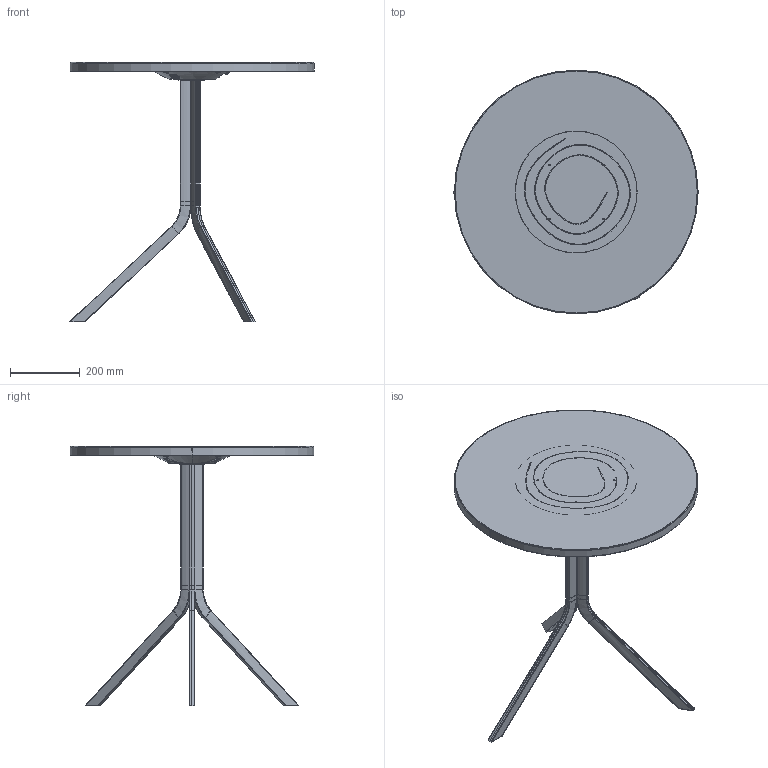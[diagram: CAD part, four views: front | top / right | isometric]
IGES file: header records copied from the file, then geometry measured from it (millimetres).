
Start section: 3D InterOp IGES (v. 2023 1.0.1), Spatial Corp. Copyright (c) 1999-2020.
Global section: file name: OKTV10FXX + OKTO10FXX.igs; native system: Spatial Corp.; preprocessor: 3D InterOp GENERIC/IGES 3.0; author: Noname; organization: Noname; date: 20240701.142442; units: millimetre
Bounding box: 701.14 x 700 x 743.71 mm (x, y, z)
Surface area: 1788339.8 mm2 (no closed solid volume)
Topology: 0 solids, 0 shells, 3869 faces, 20820 edges, 20580 vertices
Faces by surface type: revolution 1548, extrusion 1320, bspline 988, offset 13
